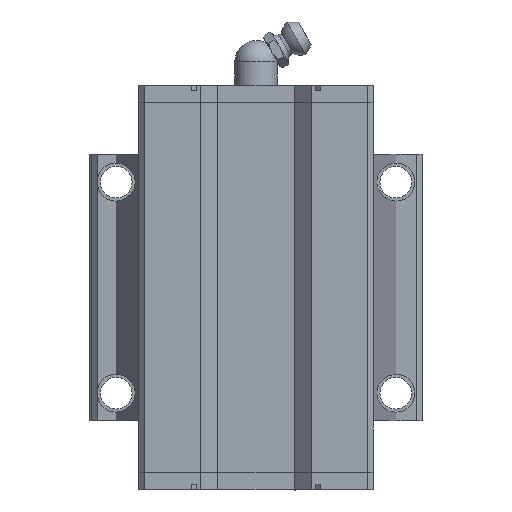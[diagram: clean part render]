
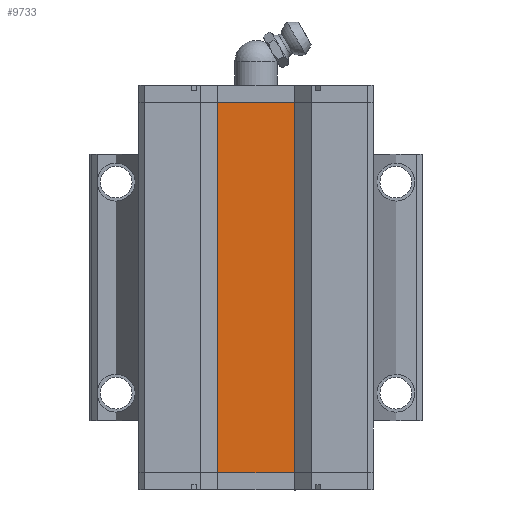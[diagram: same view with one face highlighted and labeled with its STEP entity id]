
A CAD part, front view. The second image highlights one B-rep face of the part: STEP entity #9733.
In plain terms, the highlighted planar face has unit normal (0, -1, 0).
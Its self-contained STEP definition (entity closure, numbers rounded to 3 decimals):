
#474 = LINE ( 'NONE', #2993, #491 ) ;
#482 = LINE ( 'NONE', #3008, #485 ) ;
#485 = VECTOR ( 'NONE', #3009, 1000. ) ;
#490 = LINE ( 'NONE', #3015, #493 ) ;
#491 = VECTOR ( 'NONE', #3014, 1000. ) ;
#493 = VECTOR ( 'NONE', #3016, 1000. ) ;
#494 = LINE ( 'NONE', #3019, #497 ) ;
#497 = VECTOR ( 'NONE', #3020, 1000. ) ;
#616 = CARTESIAN_POINT ( 'NONE',  ( -7.228, 13.2, 35.075 ) ) ;
#1515 = VERTEX_POINT ( 'NONE', #10766 ) ;
#1517 = VERTEX_POINT ( 'NONE', #10768 ) ;
#1528 = VERTEX_POINT ( 'NONE', #10779 ) ;
#1792 = VERTEX_POINT ( 'NONE', #616 ) ;
#1967 = EDGE_LOOP ( 'NONE', ( #4449, #4450, #4451, #4452 ) ) ;
#2606 = AXIS2_PLACEMENT_3D ( 'NONE', #8133, #8138, #8139 ) ;
#2993 = CARTESIAN_POINT ( 'NONE',  ( 7.228, 13.2, -35.075 ) ) ;
#3008 = CARTESIAN_POINT ( 'NONE',  ( 7.228, 13.2, 35.075 ) ) ;
#3009 = DIRECTION ( 'NONE',  ( 1., 0., 0. ) ) ;
#3014 = DIRECTION ( 'NONE',  ( 0., 0., -1. ) ) ;
#3015 = CARTESIAN_POINT ( 'NONE',  ( 7.228, 13.2, -35.075 ) ) ;
#3016 = DIRECTION ( 'NONE',  ( -1., 0., 0. ) ) ;
#3019 = CARTESIAN_POINT ( 'NONE',  ( -7.228, 13.2, -35.075 ) ) ;
#3020 = DIRECTION ( 'NONE',  ( 0., 0., 1. ) ) ;
#4449 = ORIENTED_EDGE ( 'NONE', *, *, #10489, .F. ) ;
#4450 = ORIENTED_EDGE ( 'NONE', *, *, #10488, .F. ) ;
#4451 = ORIENTED_EDGE ( 'NONE', *, *, #10485, .F. ) ;
#4452 = ORIENTED_EDGE ( 'NONE', *, *, #10491, .F. ) ;
#8133 = CARTESIAN_POINT ( 'NONE',  ( 7.228, 13.2, -35.075 ) ) ;
#8135 = PLANE ( 'NONE',  #2606 ) ;
#8138 = DIRECTION ( 'NONE',  ( 0., 1., 0. ) ) ;
#8139 = DIRECTION ( 'NONE',  ( 0., 0., 1. ) ) ;
#9733 = ADVANCED_FACE ( 'NONE', ( #12523 ), #8135, .F. ) ;
#10485 = EDGE_CURVE ( 'NONE', #1792, #1515, #482, .T. ) ;
#10488 = EDGE_CURVE ( 'NONE', #1515, #1528, #474, .T. ) ;
#10489 = EDGE_CURVE ( 'NONE', #1528, #1517, #490, .T. ) ;
#10491 = EDGE_CURVE ( 'NONE', #1517, #1792, #494, .T. ) ;
#10766 = CARTESIAN_POINT ( 'NONE',  ( 7.228, 13.2, 35.075 ) ) ;
#10768 = CARTESIAN_POINT ( 'NONE',  ( -7.228, 13.2, -35.075 ) ) ;
#10779 = CARTESIAN_POINT ( 'NONE',  ( 7.228, 13.2, -35.075 ) ) ;
#12523 = FACE_OUTER_BOUND ( 'NONE', #1967, .T. ) ;
